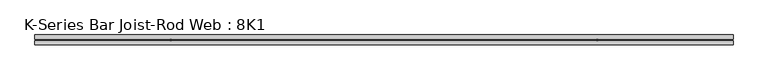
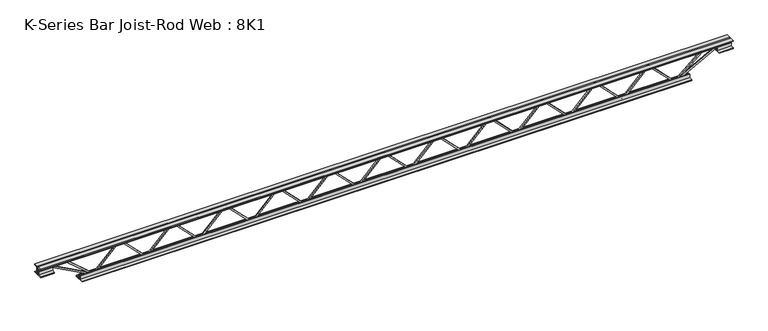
"""IFC4 building model written with IfcOpenShell, lengths in millimetres: beam geometry, K-Series Bar Joist-Rod Web : 8K1."""

from ifc_helpers import new_model, si_unit, frame, origin, place, context, project, spatial, polyline, outline, extrude, source, transform, mapped, element, save


def k_series_bar_joist_rod_web_8k1_2817c077(model_context):
    return source(origin(), model_context, "Body", "SweptSolid", [
        extrude(outline(polyline([(-90.4875, 1358.1275834), (-100.0125, 1358.1275834), (-100.0125, 1363.2961981), (90.4875, 1550.9644243), (90.4875, 1553.3271949), (-100.0125, 1740.9954211), (-100.0125, 1746.1640358), (-90.4875, 1746.1640358), (-90.4875, 1744.9826505), (100.0125, 1557.3144243), (100.0125, 1546.9771949), (-90.4875, 1359.3089687), (-90.4875, 1358.1275834)])), frame((0.0, -4.7625, 0.0), z_axis=(0.0, 1.0, 0.0), x_axis=(0.0, 0.0, 1.0)), (0.0, 0.0, 1.0), 9.525),
        extrude(outline(polyline([(-90.4875, 970.091131), (-100.0125, 970.091131), (-100.0125, 975.2597457), (90.4875, 1162.9279719), (90.4875, 1165.2907425), (-100.0125, 1352.9589687), (-100.0125, 1358.1275834), (-90.4875, 1358.1275834), (-90.4875, 1356.9461981), (100.0125, 1169.2779719), (100.0125, 1158.9407425), (-90.4875, 971.2725163), (-90.4875, 970.091131)])), frame((0.0, -4.7625, 0.0), z_axis=(0.0, 1.0, 0.0), x_axis=(0.0, 0.0, 1.0)), (0.0, 0.0, 1.0), 9.525),
        extrude(outline(polyline([(-90.4875, 582.0546786), (-100.0125, 582.0546786), (-100.0125, 587.2232933), (90.4875, 774.8915195), (90.4875, 777.2542901), (-100.0125, 964.9225163), (-100.0125, 970.091131), (-90.4875, 970.091131), (-90.4875, 968.9097457), (100.0125, 781.2415195), (100.0125, 770.9042901), (-90.4875, 583.2360639), (-90.4875, 582.0546786)])), frame((0.0, -4.7625, 0.0), z_axis=(0.0, 1.0, 0.0), x_axis=(0.0, 0.0, 1.0)), (0.0, 0.0, 1.0), 9.525),
        extrude(outline(polyline([(-90.4875, 194.0182262), (-100.0125, 194.0182262), (-100.0125, 199.1868409), (90.4875, 386.8550671), (90.4875, 389.2178377), (-100.0125, 576.8860639), (-100.0125, 582.0546786), (-90.4875, 582.0546786), (-90.4875, 580.8732933), (100.0125, 393.2050671), (100.0125, 382.8678377), (-90.4875, 195.1996115), (-90.4875, 194.0182262)])), frame((0.0, -4.7625, 0.0), z_axis=(0.0, 1.0, 0.0), x_axis=(0.0, 0.0, 1.0)), (0.0, 0.0, 1.0), 9.525),
        extrude(outline(polyline([(-90.4875, -194.0182262), (-100.0125, -194.0182262), (-100.0125, -188.8496115), (90.4875, -1.1813853), (90.4875, 1.1813853), (-100.0125, 188.8496115), (-100.0125, 194.0182262), (-90.4875, 194.0182262), (-90.4875, 192.8368409), (100.0125, 5.1686147), (100.0125, -5.1686147), (-90.4875, -192.8368409), (-90.4875, -194.0182262)])), frame((0.0, -4.7625, 0.0), z_axis=(0.0, 1.0, 0.0), x_axis=(0.0, 0.0, 1.0)), (0.0, 0.0, 1.0), 9.525),
        extrude(outline(polyline([(-90.4875, -582.0546786), (-100.0125, -582.0546786), (-100.0125, -576.8860639), (90.4875, -389.2178377), (90.4875, -386.8550671), (-100.0125, -199.1868409), (-100.0125, -194.0182262), (-90.4875, -194.0182262), (-90.4875, -195.1996115), (100.0125, -382.8678377), (100.0125, -393.2050671), (-90.4875, -580.8732933), (-90.4875, -582.0546786)])), frame((0.0, -4.7625, 0.0), z_axis=(0.0, 1.0, 0.0), x_axis=(0.0, 0.0, 1.0)), (0.0, 0.0, 1.0), 9.525),
        extrude(outline(polyline([(-90.4875, -970.091131), (-100.0125, -970.091131), (-100.0125, -964.9225163), (90.4875, -777.2542901), (90.4875, -774.8915195), (-100.0125, -587.2232933), (-100.0125, -582.0546786), (-90.4875, -582.0546786), (-90.4875, -583.2360639), (100.0125, -770.9042901), (100.0125, -781.2415195), (-90.4875, -968.9097457), (-90.4875, -970.091131)])), frame((0.0, -4.7625, 0.0), z_axis=(0.0, 1.0, 0.0), x_axis=(0.0, 0.0, 1.0)), (0.0, 0.0, 1.0), 9.525),
        extrude(outline(polyline([(-90.4875, -1358.1275834), (-100.0125, -1358.1275834), (-100.0125, -1352.9589687), (90.4875, -1165.2907425), (90.4875, -1162.9279719), (-100.0125, -975.2597457), (-100.0125, -970.091131), (-90.4875, -970.091131), (-90.4875, -971.2725163), (100.0125, -1158.9407425), (100.0125, -1169.2779719), (-90.4875, -1356.9461981), (-90.4875, -1358.1275834)])), frame((0.0, -4.7625, 0.0), z_axis=(0.0, 1.0, 0.0), x_axis=(0.0, 0.0, 1.0)), (0.0, 0.0, 1.0), 9.525),
        extrude(outline(polyline([(-90.4875, -1746.1640358), (-100.0125, -1746.1640358), (-100.0125, -1740.9954211), (90.4875, -1553.3271949), (90.4875, -1550.9644243), (-100.0125, -1363.2961981), (-100.0125, -1358.1275834), (-90.4875, -1358.1275834), (-90.4875, -1359.3089687), (100.0125, -1546.9771949), (100.0125, -1557.3144243), (-90.4875, -1744.9826505), (-90.4875, -1746.1640358)])), frame((0.0, -4.7625, 0.0), z_axis=(0.0, 1.0, 0.0), x_axis=(0.0, 0.0, 1.0)), (0.0, 0.0, 1.0), 9.525),
        extrude(outline(polyline([(-90.4875, 1746.1640358), (-100.0125, 1746.1640358), (-100.0125, 1751.3326505), (90.4875, 1939.0008767), (90.4875, 1941.3636473), (-100.0125, 2129.0318735), (-100.0125, 2134.2004882), (-90.4875, 2134.2004882), (-90.4875, 2133.0191029), (100.0125, 1945.3508767), (100.0125, 1935.0136473), (-90.4875, 1747.3454211), (-90.4875, 1746.1640358)])), frame((0.0, -4.7625, 0.0), z_axis=(0.0, 1.0, 0.0), x_axis=(0.0, 0.0, 1.0)), (0.0, 0.0, 1.0), 9.525),
        extrude(outline(polyline([(-90.4875, -2134.2004882), (-100.0125, -2134.2004882), (-100.0125, -2129.0318735), (90.4875, -1941.3636473), (90.4875, -1939.0008767), (-100.0125, -1751.3326505), (-100.0125, -1746.1640358), (-90.4875, -1746.1640358), (-90.4875, -1747.3454211), (100.0125, -1935.0136473), (100.0125, -1945.3508767), (-90.4875, -2133.0191029), (-90.4875, -2134.2004882)])), frame((0.0, -4.7625, 0.0), z_axis=(0.0, 1.0, 0.0), x_axis=(0.0, 0.0, 1.0)), (0.0, 0.0, 1.0), 9.525),
        extrude(outline(polyline([(4.7625, 101.6), (36.5125, 101.6), (36.5125, 95.25), (11.1125, 95.25), (11.1125, 69.85), (4.7625, 69.85), (4.7625, 101.6)])), frame((-2540.6004882, 0.0, 0.0), z_axis=(1.0, 0.0, 0.0), x_axis=(0.0, 1.0, 0.0)), (0.0, 0.0, 1.0), 5081.2009764),
        extrude(outline(polyline([(-4.7625, 101.6), (-4.7625, 69.85), (-11.1125, 69.85), (-11.1125, 95.25), (-36.5125, 95.25), (-36.5125, 101.6), (-4.7625, 101.6)])), frame((-2540.6004882, 0.0, 0.0), z_axis=(1.0, 0.0, 0.0), x_axis=(0.0, 1.0, 0.0)), (0.0, 0.0, 1.0), 5081.2009764),
        extrude(outline(polyline([(-4.7625, 38.1), (-36.5125, 38.1), (-36.5125, 44.45), (-11.1125, 44.45), (-11.1125, 69.85), (-4.7625, 69.85), (-4.7625, 38.1)])), frame((-2540.6004882, 0.0, 0.0), z_axis=(1.0, 0.0, 0.0), x_axis=(0.0, 1.0, 0.0)), (0.0, 0.0, 1.0), 101.6),
        extrude(outline(polyline([(36.5125, 38.1), (4.7625, 38.1), (4.7625, 69.85), (11.1125, 69.85), (11.1125, 44.45), (36.5125, 44.45), (36.5125, 38.1)])), frame((-2540.6004882, 0.0, 0.0), z_axis=(1.0, 0.0, 0.0), x_axis=(0.0, 1.0, 0.0)), (0.0, 0.0, 1.0), 101.6),
        extrude(outline(polyline([(4.7625, 38.1), (4.7625, 69.85), (11.1125, 69.85), (11.1125, 44.45), (36.5125, 44.45), (36.5125, 38.1), (4.7625, 38.1)])), frame((2439.0004882, 0.0, 0.0), z_axis=(1.0, 0.0, 0.0), x_axis=(0.0, 1.0, 0.0)), (0.0, 0.0, 1.0), 101.6),
        extrude(outline(polyline([(-4.7625, 38.1), (-36.5125, 38.1), (-36.5125, 44.45), (-11.1125, 44.45), (-11.1125, 69.85), (-4.7625, 69.85), (-4.7625, 38.1)])), frame((2439.0004882, 0.0, 0.0), z_axis=(1.0, 0.0, 0.0), x_axis=(0.0, 1.0, 0.0)), (0.0, 0.0, 1.0), 101.6),
        extrude(outline(polyline([(4.7625, -101.6), (4.7625, -69.85), (11.1125, -69.85), (11.1125, -95.25), (36.5125, -95.25), (36.5125, -101.6), (4.7625, -101.6)])), frame((-2235.8004882, 0.0, 0.0), z_axis=(1.0, 0.0, 0.0), x_axis=(0.0, 1.0, 0.0)), (0.0, 0.0, 1.0), 4471.6009764),
        extrude(outline(polyline([(-4.7625, -101.6), (-36.5125, -101.6), (-36.5125, -95.25), (-11.1125, -95.25), (-11.1125, -69.85), (-4.7625, -69.85), (-4.7625, -101.6)])), frame((-2235.8004882, 0.0, 0.0), z_axis=(1.0, 0.0, 0.0), x_axis=(0.0, 1.0, 0.0)), (0.0, 0.0, 1.0), 4471.6009764),
        extrude(outline(polyline([(0.0, -9.525), (0.0, 0.0), (346.6425392, 0.0), (346.6425392, -9.525), (0.0, -9.525)])), frame((-2441.2687867, 4.7625, 65.662372), z_axis=(0.47628314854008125, 0.0, 0.8792919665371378), x_axis=(0.8792919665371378, 0.0, -0.47628314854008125)), (0.0, 0.0, 1.0), 9.525),
        extrude(outline(polyline([(0.0, -9.525), (0.0, 0.0), (254.7569079, 0.0), (254.7569079, -9.525), (0.0, -9.525)])), frame((-2331.305142, 4.7625, 66.2229666), z_axis=(0.6480687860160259, 0.0, 0.7615818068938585), x_axis=(0.7615818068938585, 0.0, -0.6480687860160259)), (0.0, 0.0, 1.0), 9.525),
        extrude(outline(polyline([(0.0, -9.525), (0.0, 0.0), (346.6425392, 0.0), (346.6425392, -9.525), (0.0, -9.525)])), frame((2441.2687867, -4.7625, 65.662372), z_axis=(-0.476283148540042, 0.0, 0.879291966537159), x_axis=(-0.879291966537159, 0.0, -0.476283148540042)), (0.0, 0.0, 1.0), 9.525),
        extrude(outline(polyline([(0.0, -9.525), (0.0, 0.0), (254.7569079, 0.0), (254.7569079, -9.525), (0.0, -9.525)])), frame((2331.305142, -4.7625, 66.2229666), z_axis=(-0.6480687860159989, 0.0, 0.7615818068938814), x_axis=(-0.7615818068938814, 0.0, -0.6480687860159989)), (0.0, 0.0, 1.0), 9.525),
    ])


if __name__ == "__main__":
    model = new_model("IFC4")
    model_context = context("Model", 3, world=origin())
    ifc_project = project(units=[si_unit("LENGTHUNIT", "METRE", prefix="MILLI")], contexts=[model_context])
    site = spatial("IfcSite", under=ifc_project)
    building = spatial("IfcBuilding", under=site)
    placement = place(None, origin())
    k_series_bar_joist_rod_web_8k1_shape = k_series_bar_joist_rod_web_8k1_2817c077(model_context)
    element("IfcBeam", 1, ObjectType="K-Series Bar Joist-Rod Web : 8K1", at=placement, inside=building, context=model_context, shape_type="MappedRepresentation", body=[
        mapped(k_series_bar_joist_rod_web_8k1_shape, transform((0.0, 0.0, 0.0), x_axis=(1.0, 0.0, 0.0), y_axis=(0.0, 1.0, 0.0), z_axis=(0.0, 0.0, 1.0))),
    ])
    save(model, "model.ifc")
